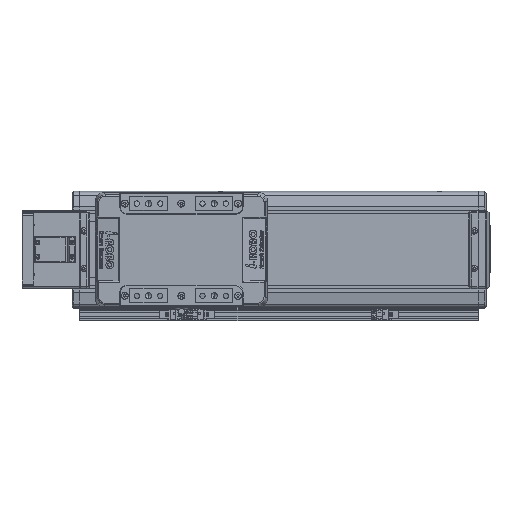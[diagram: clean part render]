
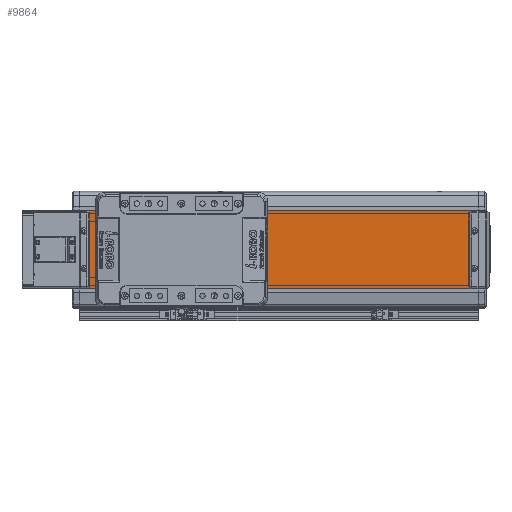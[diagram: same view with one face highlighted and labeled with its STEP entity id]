
A CAD part, top view. The second image highlights one B-rep face of the part: STEP entity #9864.
In plain terms, the highlighted planar face has unit normal (0, 0, 1).
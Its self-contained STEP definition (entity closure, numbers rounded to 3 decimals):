
#9864=ADVANCED_FACE('',(#20064),#20065,.F.);
#20064=FACE_OUTER_BOUND('',#31998,.T.);
#20065=PLANE('',#31999);
#31998=EDGE_LOOP('',(#59922,#59923,#59924,#59925));
#31999=AXIS2_PLACEMENT_3D('',#59926,#59927,#59928);
#59922=ORIENTED_EDGE('',*,*,#70606,.F.);
#59923=ORIENTED_EDGE('',*,*,#74776,.F.);
#59924=ORIENTED_EDGE('',*,*,#74120,.F.);
#59925=ORIENTED_EDGE('',*,*,#69324,.T.);
#59926=CARTESIAN_POINT('',(0.,0.,26.));
#59927=DIRECTION('',(0.,0.,-1.0));
#59928=DIRECTION('',(0.,1.0,0.));
#69324=EDGE_CURVE('',#84881,#84878,#84882,.T.);
#70606=EDGE_CURVE('',#86748,#84878,#86750,.T.);
#74120=EDGE_CURVE('',#84881,#91223,#91224,.T.);
#74776=EDGE_CURVE('',#91223,#86748,#91926,.T.);
#84878=VERTEX_POINT('',#105767);
#84881=VERTEX_POINT('',#105771);
#84882=LINE('',#105772,#105773);
#86748=VERTEX_POINT('',#108400);
#86750=LINE('',#108403,#108404);
#91223=VERTEX_POINT('',#114687);
#91224=LINE('',#114688,#114689);
#91926=LINE('',#115628,#115629);
#105767=CARTESIAN_POINT('',(510.0,-50.,26.));
#105771=CARTESIAN_POINT('',(0.,-50.,26.));
#105772=CARTESIAN_POINT('',(0.,-50.,26.));
#105773=VECTOR('',#124529,10.0);
#108400=CARTESIAN_POINT('',(510.0,50.,26.));
#108403=CARTESIAN_POINT('',(510.0,-50.,26.));
#108404=VECTOR('',#126190,10.0);
#114687=CARTESIAN_POINT('',(0.,50.,26.));
#114688=CARTESIAN_POINT('',(0.,-50.,26.));
#114689=VECTOR('',#130560,10.0);
#115628=CARTESIAN_POINT('',(0.,50.,26.));
#115629=VECTOR('',#131123,10.0);
#124529=DIRECTION('',(1.0,0.,0.));
#126190=DIRECTION('',(0.,-1.0,0.));
#130560=DIRECTION('',(0.,1.0,0.));
#131123=DIRECTION('',(1.0,0.,0.));
